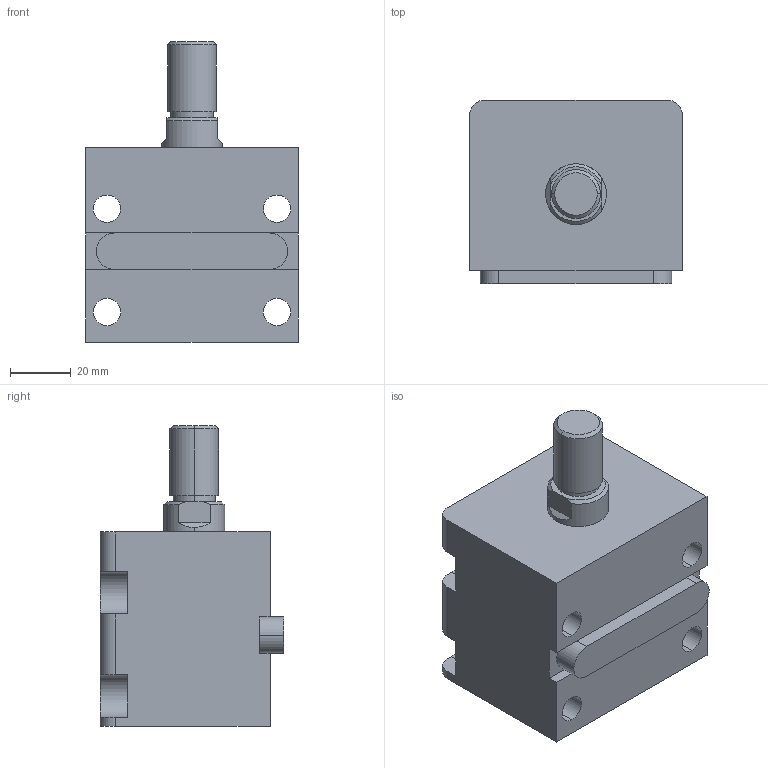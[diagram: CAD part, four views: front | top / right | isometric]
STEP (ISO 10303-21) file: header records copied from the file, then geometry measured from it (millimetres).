
FILE_DESCRIPTION (( 'STEP AP203' ), '1' );
FILE_NAME ('HTB-LA32-10W.STEP', '2019-10-09T06:25:08', ( '微软用户' ), ( '微软中国' ), 'SwSTEP 2.0', 'SolidWorks 2012', '' );
FILE_SCHEMA (( 'CONFIG_CONTROL_DESIGN' ));
Length unit declared in the file: millimetre
Products named in the file (4): HTB-LA32-10掛极; HTB-LA32-10W活塞杆; HTB-LA32-瑩; HTB-LA32-10W
Assembly tree (3 placements, depth 2):
  HTB-LA32-10W
    HTB-LA32-10掛极
    HTB-LA32-10W活塞杆
    HTB-LA32-瑩
Bounding box: 70 x 60.5 x 99 mm (x, y, z)
Volume: 236053.6 mm3; surface area: 45924.6 mm2
Topology: 3 solids, 3 shells, 92 faces, 223 edges, 146 vertices
Faces by surface type: plane 41, cylinder 37, cone 8, torus 6
Entity records: 3159 total; most frequent: DIRECTION 509, CARTESIAN_POINT 495, ORIENTED_EDGE 446, EDGE_CURVE 223, AXIS2_PLACEMENT_3D 196, VERTEX_POINT 146, VECTOR 117, LINE 117
